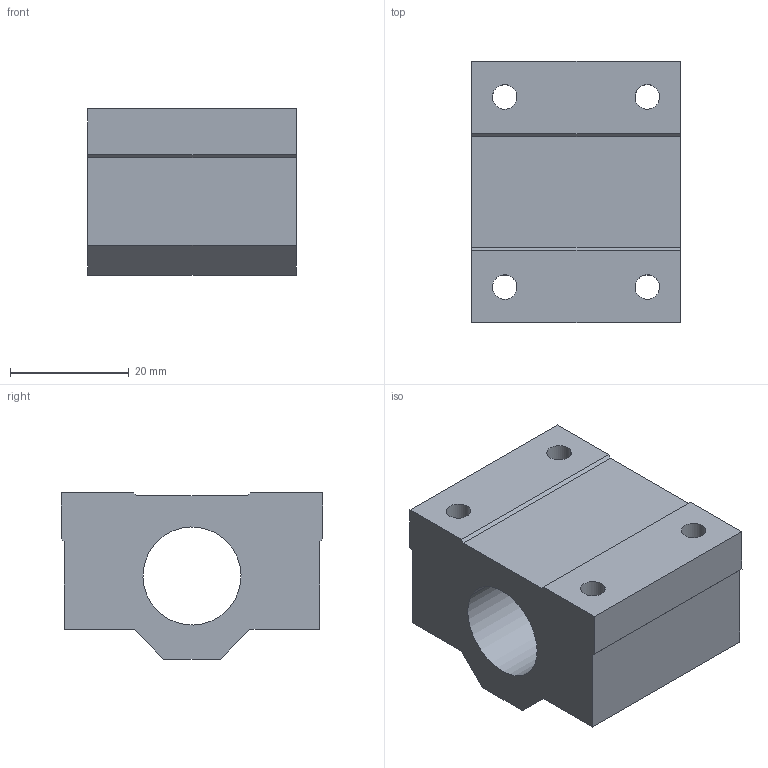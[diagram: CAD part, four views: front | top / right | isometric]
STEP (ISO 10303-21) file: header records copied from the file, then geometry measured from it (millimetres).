
FILE_DESCRIPTION(('CATIA V5 STEP Exchange'),'2;1');
FILE_NAME('C:\Users\aa\Documents\이댈\TM\BTM\BTM16.stp','2020-03-25T09:30:34+00:00',('none'),('none'),'CATIA Version 5 Release 20 SP 7 (IN-10)','CATIA V5 STEP AP203','none');
FILE_SCHEMA(('CONFIG_CONTROL_DESIGN'));
Length unit declared in the file: millimetre
Products named in the file (1): BTM16
Bounding box: 35 x 44 x 28 mm (x, y, z)
Volume: 28377.8 mm3; surface area: 9422.9 mm2
Topology: 1 solids, 1 shells, 28 faces, 78 edges, 52 vertices
Faces by surface type: plane 18, cylinder 10
Entity records: 946 total; most frequent: CARTESIAN_POINT 173, ORIENTED_EDGE 156, DIRECTION 128, EDGE_CURVE 78, VECTOR 58, LINE 58, VERTEX_POINT 52, AXIS2_PLACEMENT_3D 45
